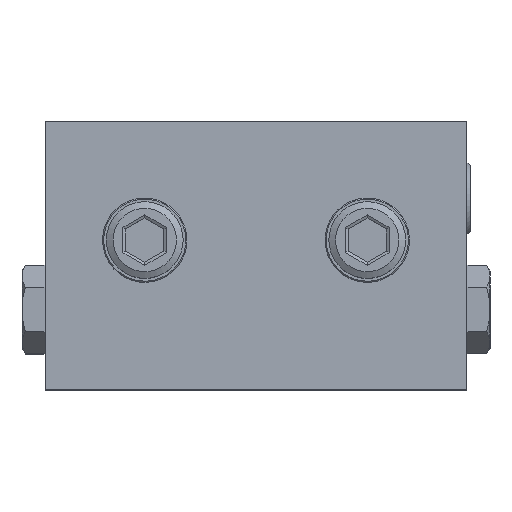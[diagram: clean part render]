
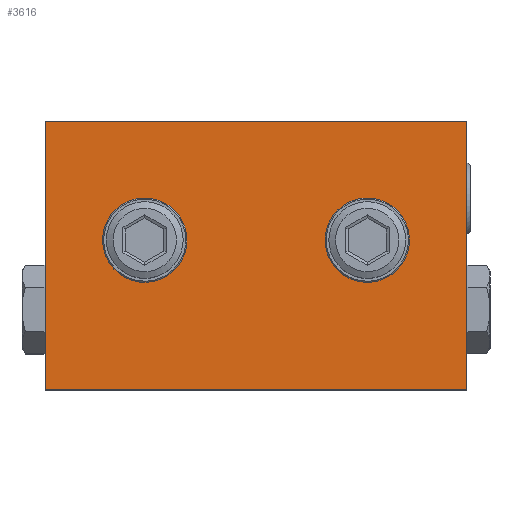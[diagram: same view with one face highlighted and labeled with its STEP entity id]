
A CAD part, top view. The second image highlights one B-rep face of the part: STEP entity #3616.
In plain terms, the highlighted planar face has unit normal (0, 0, 1) as drawn and (0, 0, -1) by its records, which use the part's own axes.
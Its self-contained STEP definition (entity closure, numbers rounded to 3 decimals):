
#1731 = EDGE_LOOP ( 'NONE', ( #4359 ) ) ;
#1969 = CARTESIAN_POINT ( 'NONE',  ( 27.5, 0., -4.85 ) ) ;
#2373 = EDGE_CURVE ( 'NONE', #17956, #25327, #3589, .T. ) ;
#3404 = CARTESIAN_POINT ( 'NONE',  ( 0., -35., -4.85 ) ) ;
#3444 = CARTESIAN_POINT ( 'NONE',  ( 14.5, -15.5, -4.85 ) ) ;
#3589 = LINE ( 'NONE', #3404, #35871 ) ;
#3616 = ADVANCED_FACE ( 'NONE', ( #7842, #19249, #4128 ), #26900, .F. ) ;
#4128 = FACE_OUTER_BOUND ( 'NONE', #35173, .T. ) ;
#4266 = VERTEX_POINT ( 'NONE', #24713 ) ;
#4359 = ORIENTED_EDGE ( 'NONE', *, *, #7685, .F. ) ;
#5036 = AXIS2_PLACEMENT_3D ( 'NONE', #21930, #12970, #24561 ) ;
#5798 = CARTESIAN_POINT ( 'NONE',  ( -11.4, -15.5, -4.85 ) ) ;
#6038 = DIRECTION ( 'NONE',  ( -1., 0., 0. ) ) ;
#6518 = CARTESIAN_POINT ( 'NONE',  ( -27.5, -35., -4.85 ) ) ;
#6915 = EDGE_CURVE ( 'NONE', #25327, #4266, #10340, .T. ) ;
#7685 = EDGE_CURVE ( 'NONE', #28044, #28044, #28878, .T. ) ;
#7842 = FACE_BOUND ( 'NONE', #1731, .T. ) ;
#8264 = CARTESIAN_POINT ( 'NONE',  ( -27.5, 0., -4.85 ) ) ;
#8503 = EDGE_CURVE ( 'NONE', #16513, #17956, #33877, .T. ) ;
#9096 = ORIENTED_EDGE ( 'NONE', *, *, #31314, .F. ) ;
#10340 = LINE ( 'NONE', #1969, #11720 ) ;
#11720 = VECTOR ( 'NONE', #21739, 1000. ) ;
#12163 = DIRECTION ( 'NONE',  ( 1., 0., 0. ) ) ;
#12970 = DIRECTION ( 'NONE',  ( 0., 0., -1. ) ) ;
#13277 = EDGE_CURVE ( 'NONE', #4266, #16513, #21626, .T. ) ;
#14334 = CARTESIAN_POINT ( 'NONE',  ( 11.4, -15.5, -4.85 ) ) ;
#16385 = VECTOR ( 'NONE', #28251, 1000. ) ;
#16410 = DIRECTION ( 'NONE',  ( 0., 0., 1. ) ) ;
#16513 = VERTEX_POINT ( 'NONE', #30541 ) ;
#17720 = ORIENTED_EDGE ( 'NONE', *, *, #6915, .F. ) ;
#17956 = VERTEX_POINT ( 'NONE', #6518 ) ;
#19249 = FACE_BOUND ( 'NONE', #22220, .T. ) ;
#20771 = DIRECTION ( 'NONE',  ( 0., 0., -1. ) ) ;
#21354 = ORIENTED_EDGE ( 'NONE', *, *, #8503, .F. ) ;
#21626 = LINE ( 'NONE', #29505, #30931 ) ;
#21739 = DIRECTION ( 'NONE',  ( 0., 1., 0. ) ) ;
#21930 = CARTESIAN_POINT ( 'NONE',  ( -14.5, -15.5, -4.85 ) ) ;
#22220 = EDGE_LOOP ( 'NONE', ( #9096 ) ) ;
#24451 = AXIS2_PLACEMENT_3D ( 'NONE', #3444, #20771, #6038 ) ;
#24561 = DIRECTION ( 'NONE',  ( 1., 0., 0. ) ) ;
#24713 = CARTESIAN_POINT ( 'NONE',  ( 27.5, 0., -4.85 ) ) ;
#25327 = VERTEX_POINT ( 'NONE', #34197 ) ;
#26217 = CIRCLE ( 'NONE', #24451, 3.1 ) ;
#26281 = ORIENTED_EDGE ( 'NONE', *, *, #13277, .F. ) ;
#26900 = PLANE ( 'NONE',  #28959 ) ;
#28044 = VERTEX_POINT ( 'NONE', #5798 ) ;
#28251 = DIRECTION ( 'NONE',  ( 0., -1., 0. ) ) ;
#28553 = VERTEX_POINT ( 'NONE', #14334 ) ;
#28878 = CIRCLE ( 'NONE', #5036, 3.1 ) ;
#28959 = AXIS2_PLACEMENT_3D ( 'NONE', #30850, #16410, #31028 ) ;
#29505 = CARTESIAN_POINT ( 'NONE',  ( 0., 0., -4.85 ) ) ;
#30541 = CARTESIAN_POINT ( 'NONE',  ( -27.5, 0., -4.85 ) ) ;
#30850 = CARTESIAN_POINT ( 'NONE',  ( 0., 0., -4.85 ) ) ;
#30931 = VECTOR ( 'NONE', #33043, 1000. ) ;
#31028 = DIRECTION ( 'NONE',  ( 1., 0., 0. ) ) ;
#31314 = EDGE_CURVE ( 'NONE', #28553, #28553, #26217, .T. ) ;
#31742 = ORIENTED_EDGE ( 'NONE', *, *, #2373, .F. ) ;
#33043 = DIRECTION ( 'NONE',  ( -1., 0., 0. ) ) ;
#33877 = LINE ( 'NONE', #8264, #16385 ) ;
#34197 = CARTESIAN_POINT ( 'NONE',  ( 27.5, -35., -4.85 ) ) ;
#35173 = EDGE_LOOP ( 'NONE', ( #26281, #17720, #31742, #21354 ) ) ;
#35871 = VECTOR ( 'NONE', #12163, 1000. ) ;
